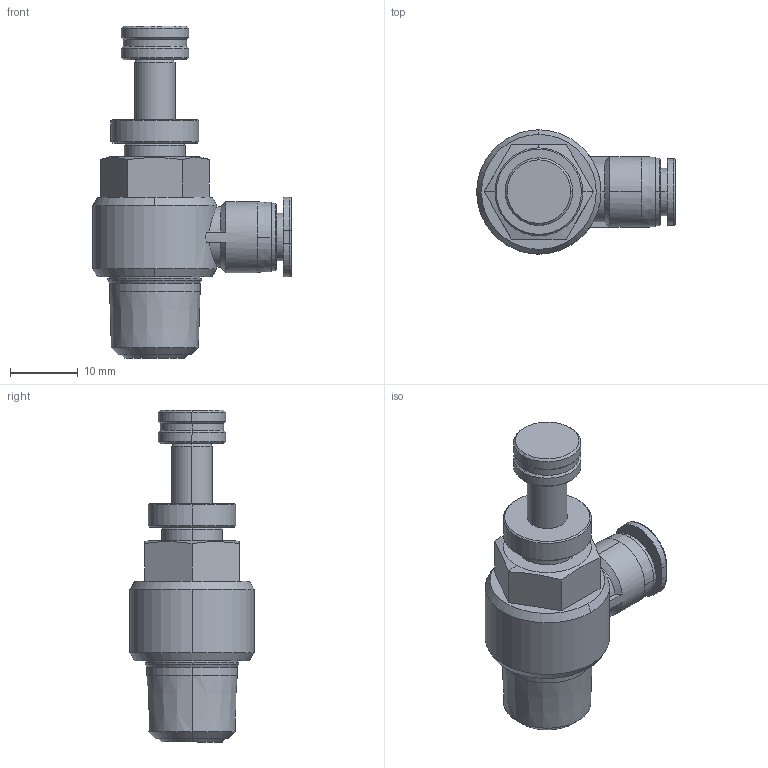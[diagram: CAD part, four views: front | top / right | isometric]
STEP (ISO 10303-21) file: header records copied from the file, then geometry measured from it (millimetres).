
FILE_DESCRIPTION (( 'STEP AP214' ), '1' );
FILE_NAME ('AJSC6-02.STEP', '2019-12-06T02:41:42', ( '微软用户' ), ( '微软中国' ), 'SwSTEP 2.0', 'SolidWorks 2016', '' );
FILE_SCHEMA (( 'AUTOMOTIVE_DESIGN' ));
Length unit declared in the file: millimetre
Products named in the file (1): AJSC6-02
Bounding box: 29.4 x 18.4 x 49.15 mm (x, y, z)
Volume: 7482.1 mm3; surface area: 3374.2 mm2
Topology: 1 solids, 1 shells, 112 faces, 254 edges, 156 vertices
Faces by surface type: cone 45, cylinder 36, plane 27, bspline 4
Entity records: 3312 total; most frequent: CARTESIAN_POINT 730, DIRECTION 573, ORIENTED_EDGE 508, EDGE_CURVE 254, AXIS2_PLACEMENT_3D 240, VERTEX_POINT 156, CIRCLE 131, EDGE_LOOP 124
